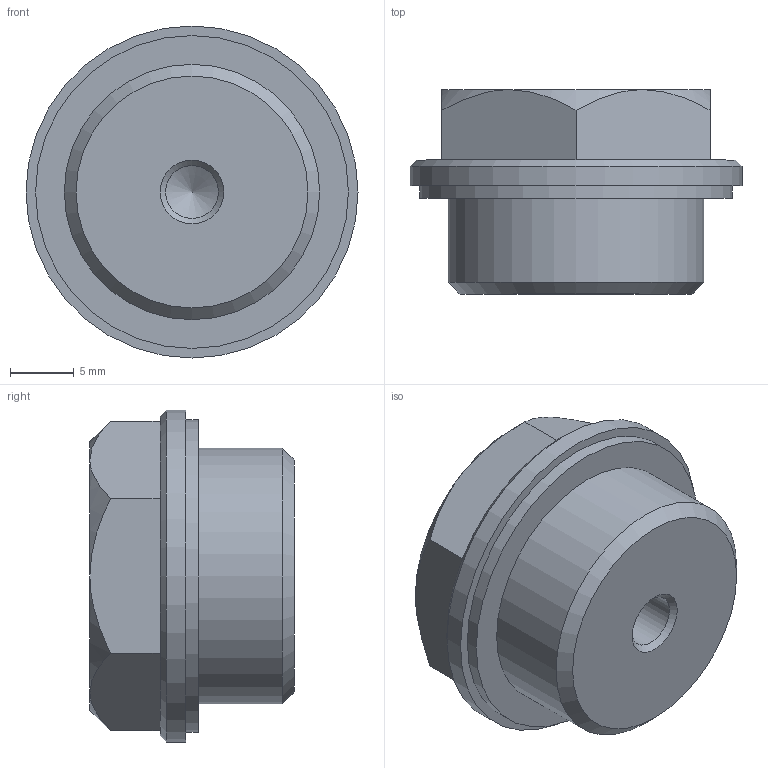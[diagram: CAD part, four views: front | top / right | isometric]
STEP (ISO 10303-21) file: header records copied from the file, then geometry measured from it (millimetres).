
FILE_DESCRIPTION( ( 'STEP AP203' ), '1' );
FILE_NAME( 'C:/Temp/Ganter_Step_05_03_2020/data/3_5/gn742/gn742_1/Threaded plug GN 742-26-M20x1,5-OS-1.stp', '2020-03-12T13:39:13', ( 'License CC BY-ND 4.0' ), ( 'CADENAS' ), ' ', 'PARTsolutions', ' ' );
FILE_SCHEMA( ( 'CONFIG_CONTROL_DESIGN' ) );
Length unit declared in the file: millimetre
Products named in the file (1): _Threaded plug GN 742-26-M20x1,5-OS-1
Bounding box: 26 x 16 x 26 mm (x, y, z)
Volume: 5762.3 mm3; surface area: 2249.9 mm2
Topology: 1 solids, 1 shells, 25 faces, 50 edges, 30 vertices
Faces by surface type: plane 11, cone 10, cylinder 4
Full cylindrical faces by diameter (mm): 4.134 x1, 20 x1, 24.5 x1, 26 x1
Entity records: 700 total; most frequent: CARTESIAN_POINT 181, DIRECTION 98, ORIENTED_EDGE 82, AXIS2_PLACEMENT_3D 43, EDGE_CURVE 41, EDGE_LOOP 36, VERTEX_POINT 30, FACE_OUTER_BOUND 29
